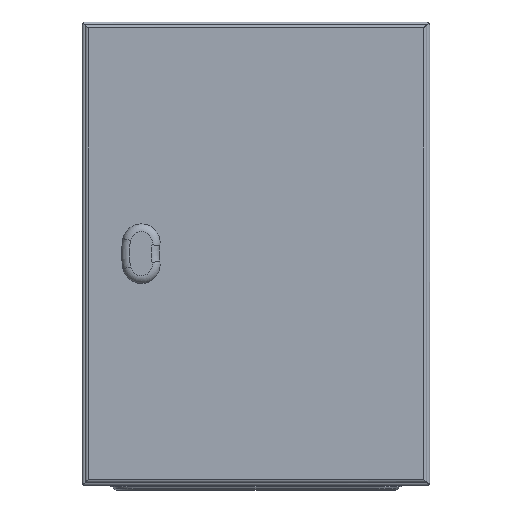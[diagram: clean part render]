
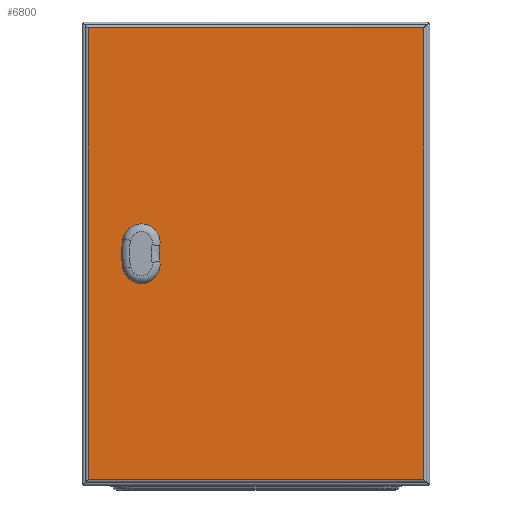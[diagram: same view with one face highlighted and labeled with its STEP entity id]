
A CAD part, front view. The second image highlights one B-rep face of the part: STEP entity #6800.
In plain terms, the highlighted planar face has unit normal (0, -1, 0).
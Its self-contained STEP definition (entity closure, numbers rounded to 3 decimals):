
#526=LINE('',#11115,#926);
#527=LINE('',#11118,#927);
#528=LINE('',#11120,#928);
#529=LINE('',#11122,#929);
#926=VECTOR('',#8892,1000.);
#927=VECTOR('',#8893,1000.);
#928=VECTOR('',#8894,1000.);
#929=VECTOR('',#8895,1000.);
#1756=ORIENTED_EDGE('',*,*,#3258,.F.);
#1757=ORIENTED_EDGE('',*,*,#3259,.T.);
#1758=ORIENTED_EDGE('',*,*,#3260,.T.);
#1759=ORIENTED_EDGE('',*,*,#3261,.T.);
#1760=ORIENTED_EDGE('',*,*,#3262,.F.);
#1761=ORIENTED_EDGE('',*,*,#3263,.F.);
#1762=ORIENTED_EDGE('',*,*,#3264,.T.);
#1763=ORIENTED_EDGE('',*,*,#3265,.T.);
#3258=EDGE_CURVE('',#4060,#4061,#4588,.T.);
#3259=EDGE_CURVE('',#4060,#4062,#4589,.T.);
#3260=EDGE_CURVE('',#4062,#4063,#4590,.T.);
#3261=EDGE_CURVE('',#4063,#4061,#4591,.T.);
#3262=EDGE_CURVE('',#4064,#4065,#526,.F.);
#3263=EDGE_CURVE('',#4066,#4064,#527,.T.);
#3264=EDGE_CURVE('',#4066,#4067,#528,.F.);
#3265=EDGE_CURVE('',#4067,#4065,#529,.T.);
#4060=VERTEX_POINT('',#11108);
#4061=VERTEX_POINT('',#11109);
#4062=VERTEX_POINT('',#11111);
#4063=VERTEX_POINT('',#11113);
#4064=VERTEX_POINT('',#11116);
#4065=VERTEX_POINT('',#11117);
#4066=VERTEX_POINT('',#11119);
#4067=VERTEX_POINT('',#11121);
#4588=CIRCLE('',#7464,34.3);
#4589=CIRCLE('',#7465,16.2);
#4590=CIRCLE('',#7466,60.7);
#4591=CIRCLE('',#7467,16.2);
#5144=EDGE_LOOP('',(#1756,#1757,#1758,#1759));
#5145=EDGE_LOOP('',(#1760,#1761,#1762,#1763));
#5932=FACE_BOUND('',#5144,.T.);
#5933=FACE_BOUND('',#5145,.T.);
#6544=PLANE('',#7463);
#6800=ADVANCED_FACE('',(#5932,#5933),#6544,.F.);
#7463=AXIS2_PLACEMENT_3D('',#11106,#8882,#8883);
#7464=AXIS2_PLACEMENT_3D('',#11107,#8884,#8885);
#7465=AXIS2_PLACEMENT_3D('',#11110,#8886,#8887);
#7466=AXIS2_PLACEMENT_3D('',#11112,#8888,#8889);
#7467=AXIS2_PLACEMENT_3D('',#11114,#8890,#8891);
#8882=DIRECTION('',(0.,1.,0.));
#8883=DIRECTION('',(0.,0.,1.));
#8884=DIRECTION('',(0.,1.,0.));
#8885=DIRECTION('',(1.,0.,0.));
#8886=DIRECTION('',(0.,1.,0.));
#8887=DIRECTION('',(1.,0.,0.));
#8888=DIRECTION('',(0.,1.,0.));
#8889=DIRECTION('',(1.,0.,0.));
#8890=DIRECTION('',(0.,1.,0.));
#8891=DIRECTION('',(1.,0.,0.));
#8892=DIRECTION('',(0.,0.,-1.));
#8893=DIRECTION('',(-1.,0.,0.));
#8894=DIRECTION('',(0.,0.,-1.));
#8895=DIRECTION('',(-1.,0.,0.));
#11106=CARTESIAN_POINT('',(0.,-16.5,0.));
#11107=CARTESIAN_POINT('',(-49.402,-16.5,0.));
#11108=CARTESIAN_POINT('',(-83.089,-16.5,-6.452));
#11109=CARTESIAN_POINT('',(-83.089,-16.5,6.452));
#11110=CARTESIAN_POINT('',(-99.,-16.5,-9.5));
#11111=CARTESIAN_POINT('',(-114.827,-16.5,-12.958));
#11112=CARTESIAN_POINT('',(-55.526,-16.5,0.));
#11113=CARTESIAN_POINT('',(-114.827,-16.5,12.958));
#11114=CARTESIAN_POINT('',(-99.,-16.5,9.5));
#11115=CARTESIAN_POINT('',(-145.,-16.5,200.));
#11116=CARTESIAN_POINT('',(-145.,-16.5,-195.));
#11117=CARTESIAN_POINT('',(-145.,-16.5,195.));
#11118=CARTESIAN_POINT('',(150.,-16.5,-195.));
#11119=CARTESIAN_POINT('',(145.,-16.5,-195.));
#11120=CARTESIAN_POINT('',(145.,-16.5,200.));
#11121=CARTESIAN_POINT('',(145.,-16.5,195.));
#11122=CARTESIAN_POINT('',(150.,-16.5,195.));
